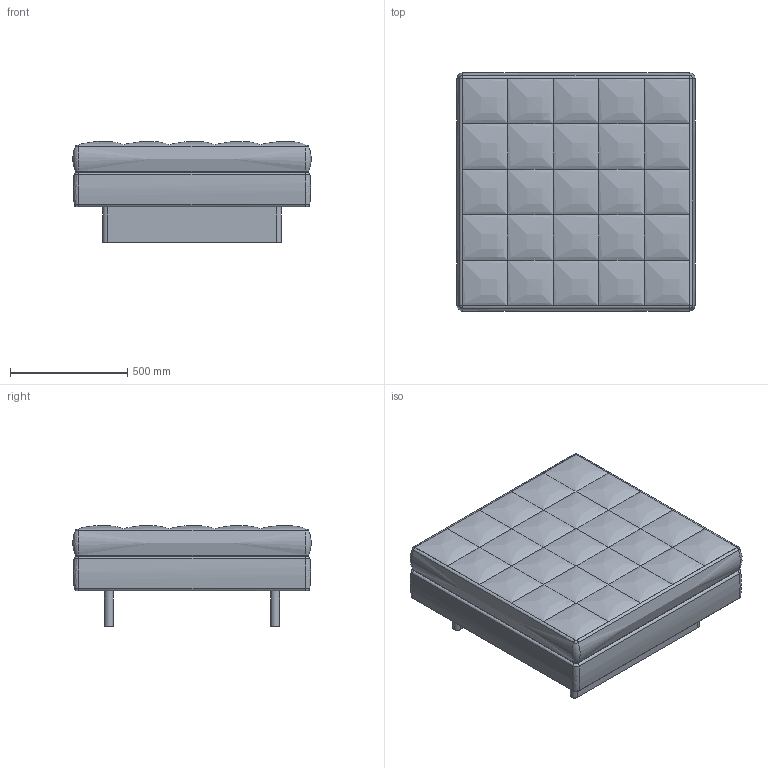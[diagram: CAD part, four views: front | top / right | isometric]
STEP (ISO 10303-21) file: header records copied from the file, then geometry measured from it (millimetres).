
FILE_DESCRIPTION(/* description */ (''),/* implementation_level */ '2;1');
FILE_NAME(/* name */ 'Asymmetric_Grand_CB-640GF_3D',/* time_stamp */ '2024-06-27T12:34:33+02:00',/* author */ (''),/* organization */ (''),/* preprocessor_version */ 'ST-DEVELOPER v16.5',/* originating_system */ 'Rhino 7.34',/* authorisation */ '');
FILE_SCHEMA (('AUTOMOTIVE_DESIGN'));
Length unit declared in the file: centimetre
Products named in the file (2): Document; Asymmetric_Grand_CB-640GF
Assembly tree (1 placements, depth 2):
  Document
    Asymmetric_Grand_CB-640GF
Bounding box: 1016 x 1016 x 430.75 mm (x, y, z)
Volume: 8715074.4 mm3; surface area: 5602883.2 mm2
Topology: 2 solids, 30 shells, 91 faces, 244 edges, 185 vertices
Faces by surface type: bspline 76, plane 11, cylinder 4
Entity records: 11374 total; most frequent: CARTESIAN_POINT 9976, ORIENTED_EDGE 370, EDGE_CURVE 244, VERTEX_POINT 185, B_SPLINE_CURVE_WITH_KNOTS 115, ADVANCED_FACE 91, FACE_OUTER_BOUND 91, EDGE_LOOP 91
